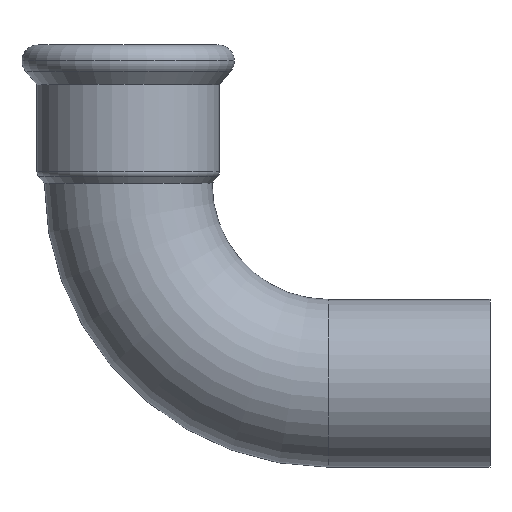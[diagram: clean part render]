
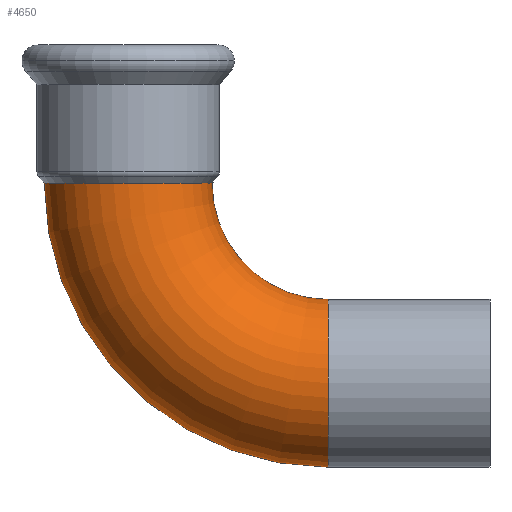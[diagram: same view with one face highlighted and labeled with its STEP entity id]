
A CAD part, top view. The second image highlights one B-rep face of the part: STEP entity #4650.
In plain terms, the highlighted toroidal (fillet/blend) face has major radius 42 mm and minor radius 17.594 mm.
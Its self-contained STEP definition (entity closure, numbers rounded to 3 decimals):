
#1860=CARTESIAN_POINT('',(-270.917,193.522,0.));
#1870=VERTEX_POINT('',#1860);
#2050=CARTESIAN_POINT('',(-306.106,193.522,
0.));
#2060=VERTEX_POINT('',#2050);
#2900=CARTESIAN_POINT('',(-246.511,133.928,
0.));
#2910=VERTEX_POINT('',#2900);
#2940=CARTESIAN_POINT('',(-246.511,151.522,0.));
#2950=DIRECTION('',(1.,0.,0.));
#2960=DIRECTION('',(0.,1.,0.));
#2970=AXIS2_PLACEMENT_3D('',#2940,#2950,#2960);
#2980=CIRCLE('',#2970,17.594);
#2990=CARTESIAN_POINT('',(-246.511,151.522,
17.594));
#3000=VERTEX_POINT('',#2990);
#3010=EDGE_CURVE('',#3000,#2910,#2980,.T.);
#3030=CARTESIAN_POINT('',(-246.511,169.116,0.));
#3040=VERTEX_POINT('',#3030);
#3050=EDGE_CURVE('',#3040,#3000,#2980,.T.);
#4350=CARTESIAN_POINT('',(-246.511,193.522,0.));
#4360=DIRECTION('',(0.,0.,1.));
#4370=DIRECTION('',(-1.,0.,0.));
#4380=AXIS2_PLACEMENT_3D('',#4350,#4360,#4370);
#4390=TOROIDAL_SURFACE('',#4380,42.,17.594);
#4400=ORIENTED_EDGE('',*,*,#3010,.F.);
#4410=CARTESIAN_POINT('',(-246.511,193.522,
0.));
#4420=DIRECTION('',(0.,0.,1.));
#4430=DIRECTION('',(-1.,0.,0.));
#4440=AXIS2_PLACEMENT_3D('',#4410,#4420,#4430);
#4450=CIRCLE('',#4440,59.594);
#4460=EDGE_CURVE('',#2060,#2910,#4450,.T.);
#4470=ORIENTED_EDGE('',*,*,#4460,.T.);
#4480=CARTESIAN_POINT('',(-288.511,193.522,0.));
#4490=DIRECTION('',(0.,-1.,0.));
#4500=DIRECTION('',(1.,0.,0.));
#4510=AXIS2_PLACEMENT_3D('',#4480,#4490,#4500);
#4520=CIRCLE('',#4510,17.594);
#4530=EDGE_CURVE('',#1870,#2060,#4520,.T.);
#4540=ORIENTED_EDGE('',*,*,#4530,.T.);
#4550=CARTESIAN_POINT('',(-246.511,193.522,0.));
#4560=DIRECTION('',(0.,0.,1.));
#4570=DIRECTION('',(-1.,0.,0.));
#4580=AXIS2_PLACEMENT_3D('',#4550,#4560,#4570);
#4590=CIRCLE('',#4580,24.406);
#4600=EDGE_CURVE('',#1870,#3040,#4590,.T.);
#4610=ORIENTED_EDGE('',*,*,#4600,.F.);
#4620=ORIENTED_EDGE('',*,*,#3050,.F.);
#4630=EDGE_LOOP('',(#4620,#4610,#4540,#4470,#4400));
#4640=FACE_OUTER_BOUND('',#4630,.T.);
#4650=ADVANCED_FACE('',(#4640),#4390,.T.);
